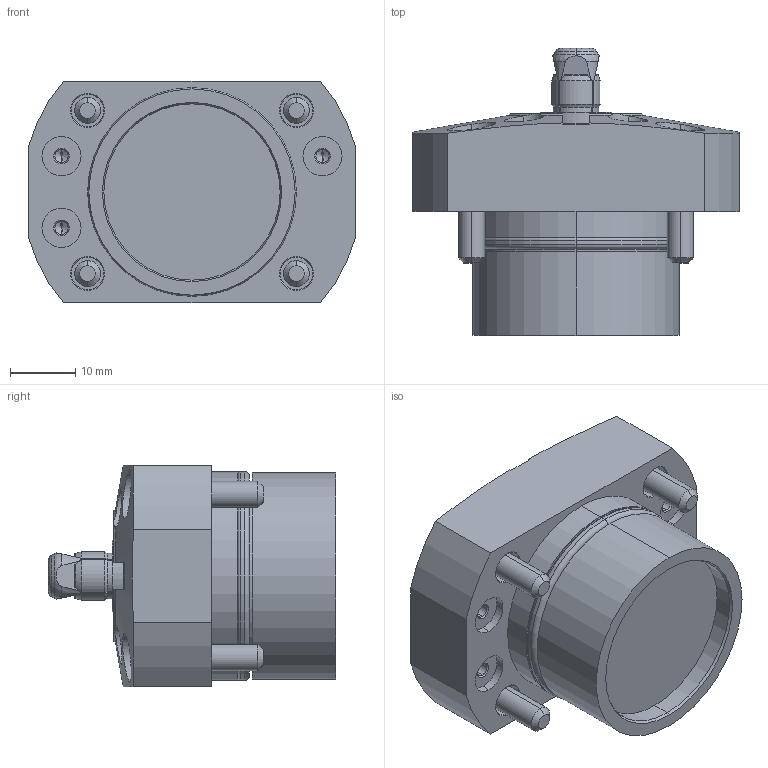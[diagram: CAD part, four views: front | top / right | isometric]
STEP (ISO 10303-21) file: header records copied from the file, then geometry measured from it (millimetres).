
FILE_DESCRIPTION (( 'STEP AP203' ), '1' );
FILE_NAME ('SFH1080.STEP', '2010-11-03T23:02:53', ( ' ' ), ( ' ' ), 'SwSTEP 2.0', 'SolidWorks 2010', '' );
FILE_SCHEMA (( 'CONFIG_CONTROL_DESIGN' ));
Length unit declared in the file: millimetre
Products named in the file (7): 冇8_郫霓; 6妏寠晅无倌_M3_10; SFH1080; SFH1080_套菁轤礁诎蔬晅; SFH1_钾堇轤O剌皋晅; φ8_ｽﾘｰﾌﾞ; 6妏寠晅无倌_M4_16
Assembly tree (12 placements, depth 2):
  SFH1080
    冇8_郫霓
    6妏寠晅无倌_M3_10  x4
    SFH1080_套菁轤礁诎蔬晅
    6妏寠晅无倌_M4_16  x4
    SFH1_钾堇轤O剌皋晅
    φ8_ｽﾘｰﾌﾞ
Bounding box: 50 x 44 x 34 mm (x, y, z)
Volume: 34708.9 mm3; surface area: 15553.8 mm2
Topology: 16 solids, 16 shells, 490 faces, 1019 edges, 568 vertices
Faces by surface type: plane 191, cone 160, cylinder 122, torus 17
Entity records: 10123 total; most frequent: CARTESIAN_POINT 2392, DIRECTION 1510, ORIENTED_EDGE 1366, EDGE_CURVE 683, AXIS2_PLACEMENT_3D 626, VERTEX_POINT 418, EDGE_LOOP 341, CIRCLE 307
